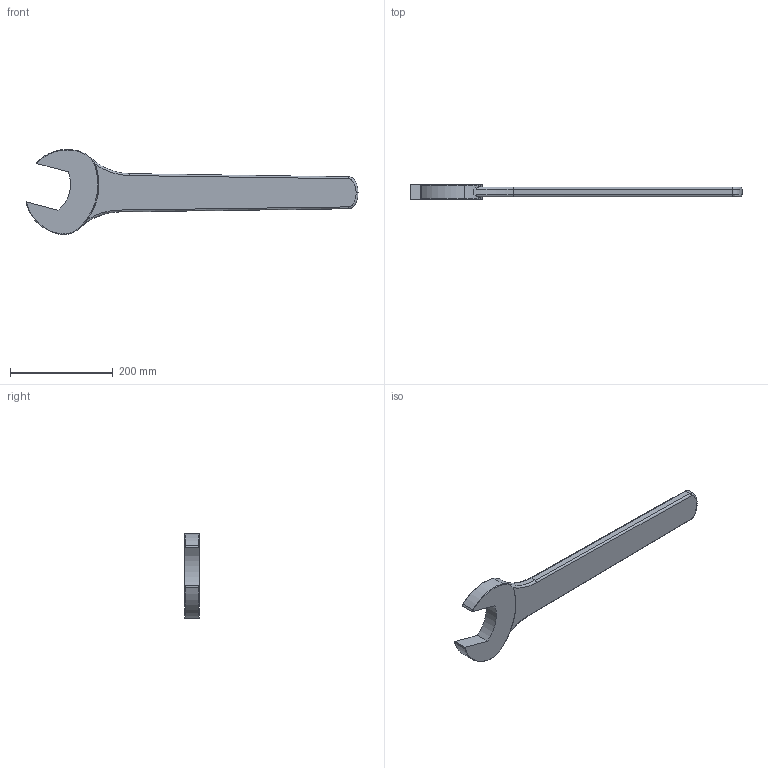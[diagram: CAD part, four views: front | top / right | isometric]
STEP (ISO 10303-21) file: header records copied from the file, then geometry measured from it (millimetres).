
FILE_DESCRIPTION (( 'STEP AP214' ), '1' );
FILE_NAME ('One-sided-spanner-Circle-77.STEP', '2021-11-30T06:35:04', ( 'ASIS User' ), ( 'ASIS User' ), 'SwSTEP 2.0', 'SolidWorks 2021', '' );
FILE_SCHEMA (( 'AUTOMOTIVE_DESIGN' ));
Length unit declared in the file: millimetre
Products named in the file (1): One-sided-spanner-Circle-77
Bounding box: 645.26 x 28 x 165.45 mm (x, y, z)
Volume: 996588.8 mm3; surface area: 127027.9 mm2
Topology: 1 solids, 1 shells, 63 faces, 151 edges, 86 vertices
Faces by surface type: torus 24, cylinder 18, bspline 12, plane 9
Entity records: 2691 total; most frequent: CARTESIAN_POINT 1275, DIRECTION 301, ORIENTED_EDGE 294, EDGE_CURVE 147, AXIS2_PLACEMENT_3D 134, VERTEX_POINT 86, CIRCLE 82, FACE_OUTER_BOUND 63
